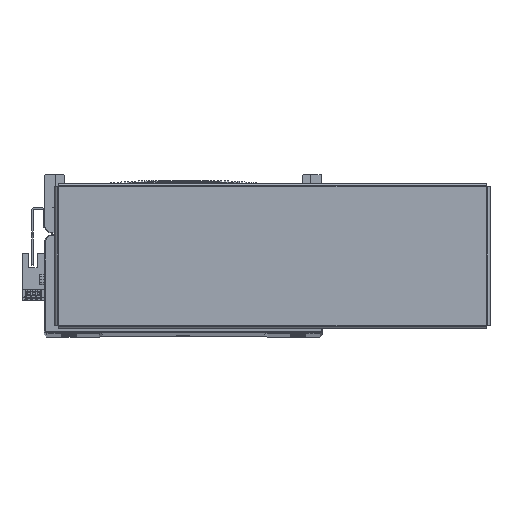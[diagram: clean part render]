
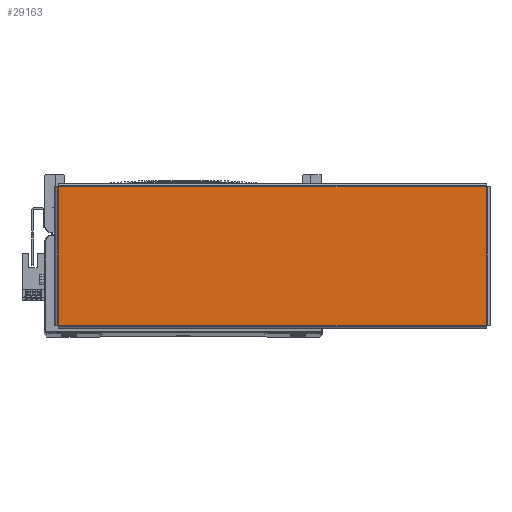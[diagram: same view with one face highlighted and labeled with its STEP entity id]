
A CAD part, top view. The second image highlights one B-rep face of the part: STEP entity #29163.
In plain terms, the highlighted planar face has unit normal (0, 0, 1) as drawn and (0, -1, 0) by its records, which use the part's own axes.
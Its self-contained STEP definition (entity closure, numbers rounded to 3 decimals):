
#2885 = PLANE ( 'NONE',  #31418 ) ;
#2901 = CARTESIAN_POINT ( 'NONE',  ( 0., -1.5, 0. ) ) ;
#2950 = DIRECTION ( 'NONE',  ( 0., 1., 0. ) ) ;
#2968 = DIRECTION ( 'NONE',  ( 0., 0., 1. ) ) ;
#4009 = EDGE_LOOP ( 'NONE', ( #40195, #40122, #40172, #40269 ) ) ;
#21025 = VERTEX_POINT ( 'NONE', #67713 ) ;
#21030 = VERTEX_POINT ( 'NONE', #67751 ) ;
#21064 = VERTEX_POINT ( 'NONE', #67727 ) ;
#21103 = VERTEX_POINT ( 'NONE', #67782 ) ;
#29163 = ADVANCED_FACE ( 'NONE', ( #49077 ), #2885, .F. ) ;
#31418 = AXIS2_PLACEMENT_3D ( 'NONE', #2901, #2950, #2968 ) ;
#35582 = EDGE_CURVE ( 'NONE', #21103, #21030, #65193, .T. ) ;
#35593 = EDGE_CURVE ( 'NONE', #21064, #21103, #65204, .T. ) ;
#35636 = EDGE_CURVE ( 'NONE', #21025, #21064, #65216, .T. ) ;
#35638 = EDGE_CURVE ( 'NONE', #21030, #21025, #65235, .T. ) ;
#40122 = ORIENTED_EDGE ( 'NONE', *, *, #35593, .T. ) ;
#40172 = ORIENTED_EDGE ( 'NONE', *, *, #35582, .T. ) ;
#40195 = ORIENTED_EDGE ( 'NONE', *, *, #35636, .T. ) ;
#40269 = ORIENTED_EDGE ( 'NONE', *, *, #35638, .T. ) ;
#49077 = FACE_OUTER_BOUND ( 'NONE', #4009, .T. ) ;
#53893 = DIRECTION ( 'NONE',  ( 0., 0., -1. ) ) ;
#53907 = CARTESIAN_POINT ( 'NONE',  ( -130.863, -1.5, 42.293 ) ) ;
#53945 = DIRECTION ( 'NONE',  ( -1., 0., 0. ) ) ;
#53960 = CARTESIAN_POINT ( 'NONE',  ( 130.893, -1.5, 42.263 ) ) ;
#53992 = DIRECTION ( 'NONE',  ( 0., 0., 1. ) ) ;
#53993 = DIRECTION ( 'NONE',  ( 1., 0., 0. ) ) ;
#54008 = CARTESIAN_POINT ( 'NONE',  ( -130.893, -1.5, -42.263 ) ) ;
#54015 = CARTESIAN_POINT ( 'NONE',  ( 130.863, -1.5, -42.293 ) ) ;
#65193 = LINE ( 'NONE', #53907, #65223 ) ;
#65203 = VECTOR ( 'NONE', #53993, 1000. ) ;
#65204 = LINE ( 'NONE', #53960, #65236 ) ;
#65216 = LINE ( 'NONE', #54015, #65218 ) ;
#65218 = VECTOR ( 'NONE', #53992, 1000. ) ;
#65223 = VECTOR ( 'NONE', #53893, 1000. ) ;
#65235 = LINE ( 'NONE', #54008, #65203 ) ;
#65236 = VECTOR ( 'NONE', #53945, 1000. ) ;
#67713 = CARTESIAN_POINT ( 'NONE',  ( 130.863, -1.5, -42.263 ) ) ;
#67727 = CARTESIAN_POINT ( 'NONE',  ( 130.863, -1.5, 42.263 ) ) ;
#67751 = CARTESIAN_POINT ( 'NONE',  ( -130.863, -1.5, -42.263 ) ) ;
#67782 = CARTESIAN_POINT ( 'NONE',  ( -130.863, -1.5, 42.263 ) ) ;
